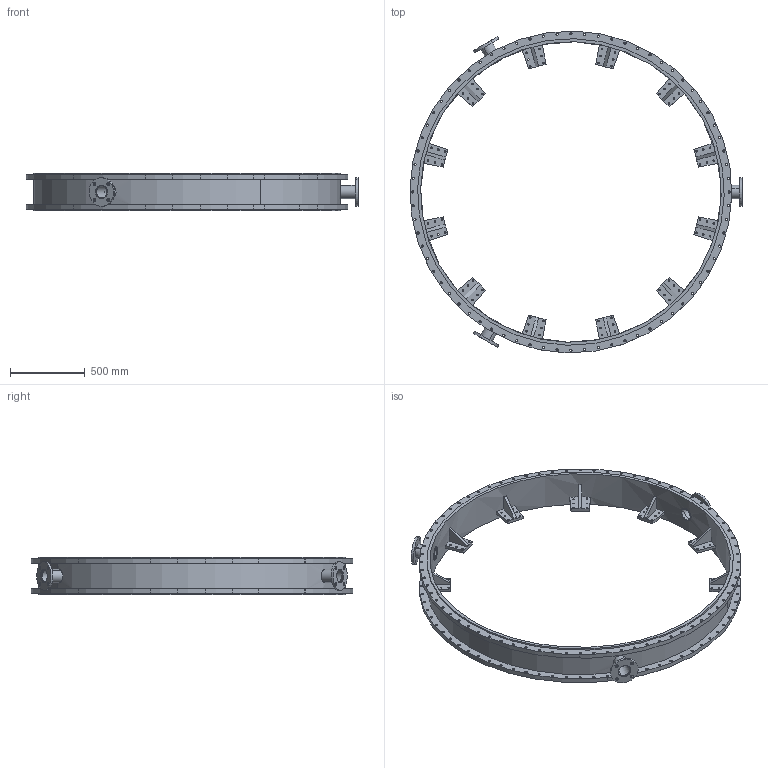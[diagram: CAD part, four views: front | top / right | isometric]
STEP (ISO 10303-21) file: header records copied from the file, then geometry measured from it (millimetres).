
FILE_DESCRIPTION(('CATIA V5 STEP Exchange'),'2;1');
FILE_NAME('V:\enea.it\fra\user\micozzi\CATIA\LoadAssembly_ASG\Modelli_Montati_1-12-08\VIROLA.stp','2010-10-27T13:47:01+00:00',('none'),('none'),'CATIA Version 5 Release 19 SP 2 (IN-10)','CATIA V5 STEP AP203','none');
FILE_SCHEMA(('CONFIG_CONTROL_DESIGN'));
Length unit declared in the file: millimetre
Products named in the file (1): Virola superiore ASG
Bounding box: 2219.72 x 2151.4 x 250 mm (x, y, z)
Volume: 58286780.3 mm3; surface area: 6040671.1 mm2
Topology: 7 solids, 7 shells, 654 faces, 1855 edges, 1229 vertices
Faces by surface type: cylinder 498, plane 132, cone 24
Entity records: 20054 total; most frequent: ORIENTED_EDGE 3710, CARTESIAN_POINT 3642, DIRECTION 2380, EDGE_CURVE 1855, AXIS2_PLACEMENT_3D 1325, VERTEX_POINT 1229, EDGE_LOOP 1144, CIRCLE 1044
